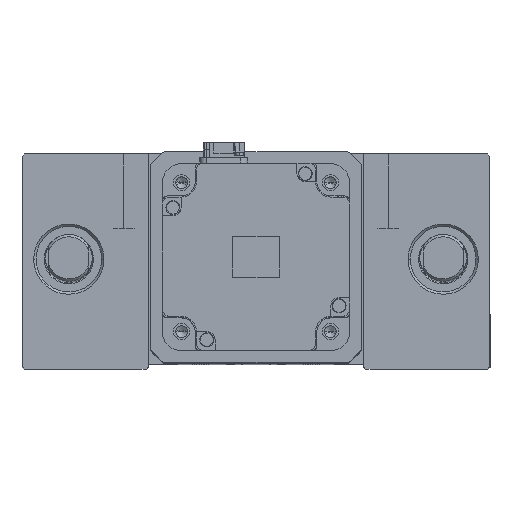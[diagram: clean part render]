
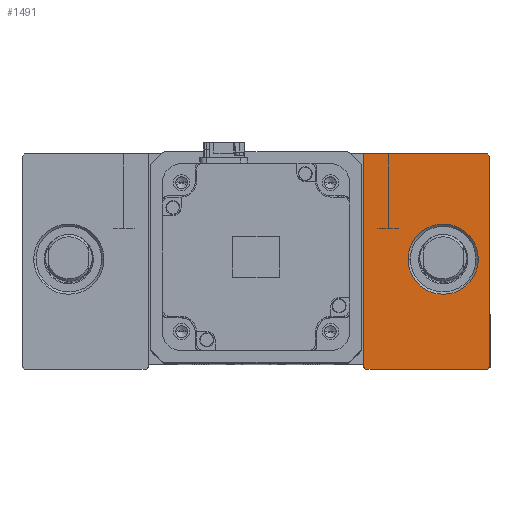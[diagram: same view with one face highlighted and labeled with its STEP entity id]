
A CAD part, top view. The second image highlights one B-rep face of the part: STEP entity #1491.
In plain terms, the highlighted planar face has unit normal (0, 0, 1).
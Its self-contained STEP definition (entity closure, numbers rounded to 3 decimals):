
#306 = AXIS2_PLACEMENT_3D ( 'NONE', #42944, #39216, #15960 ) ;
#947 = CARTESIAN_POINT ( 'NONE',  ( 100., -46., 35. ) ) ;
#1491 = ADVANCED_FACE ( 'NONE', ( #40991, #21569 ), #8139, .T. ) ;
#4692 = LINE ( 'NONE', #8907, #24134 ) ;
#4978 = CIRCLE ( 'NONE', #5404, 15. ) ;
#5169 = CARTESIAN_POINT ( 'NONE',  ( 0., 0., 35. ) ) ;
#5404 = AXIS2_PLACEMENT_3D ( 'NONE', #41604, #18361, #45503 ) ;
#5986 = ORIENTED_EDGE ( 'NONE', *, *, #50062, .T. ) ;
#6746 = CARTESIAN_POINT ( 'NONE',  ( 100., 44., 35. ) ) ;
#7515 = EDGE_CURVE ( 'NONE', #25339, #49653, #45760, .T. ) ;
#7674 = DIRECTION ( 'NONE',  ( 1., 0., 0. ) ) ;
#8139 = PLANE ( 'NONE',  #306 ) ;
#8907 = CARTESIAN_POINT ( 'NONE',  ( 46., 45., 35. ) ) ;
#9219 = LINE ( 'NONE', #39048, #38987 ) ;
#9306 = CARTESIAN_POINT ( 'NONE',  ( 46., -46., 35. ) ) ;
#11073 = ORIENTED_EDGE ( 'NONE', *, *, #37308, .T. ) ;
#11170 = DIRECTION ( 'NONE',  ( -1., 0., 0. ) ) ;
#11745 = AXIS2_PLACEMENT_3D ( 'NONE', #11755, #38928, #15656 ) ;
#11755 = CARTESIAN_POINT ( 'NONE',  ( 80., 0., 35. ) ) ;
#12250 = ORIENTED_EDGE ( 'NONE', *, *, #20332, .T. ) ;
#12498 = EDGE_CURVE ( 'NONE', #21686, #49139, #33296, .T. ) ;
#14002 = CARTESIAN_POINT ( 'NONE',  ( 46., 45., 35. ) ) ;
#15656 = DIRECTION ( 'NONE',  ( 1., 0., 0. ) ) ;
#15707 = ORIENTED_EDGE ( 'NONE', *, *, #25287, .T. ) ;
#15960 = DIRECTION ( 'NONE',  ( 1., 0., 0. ) ) ;
#16111 = VECTOR ( 'NONE', #16890, 1000. ) ;
#16366 = VERTEX_POINT ( 'NONE', #33492 ) ;
#16733 = DIRECTION ( 'NONE',  ( 0., -1., 0. ) ) ;
#16765 = ORIENTED_EDGE ( 'NONE', *, *, #12498, .T. ) ;
#16890 = DIRECTION ( 'NONE',  ( 0.707, -0.707, 0. ) ) ;
#17048 = EDGE_CURVE ( 'NONE', #49653, #25339, #4978, .T. ) ;
#18361 = DIRECTION ( 'NONE',  ( 0., 0., -1. ) ) ;
#18992 = CARTESIAN_POINT ( 'NONE',  ( 46., 45., 35. ) ) ;
#19901 = CARTESIAN_POINT ( 'NONE',  ( 100., 45., 35. ) ) ;
#20332 = EDGE_CURVE ( 'NONE', #36467, #49100, #4692, .T. ) ;
#21460 = EDGE_LOOP ( 'NONE', ( #48319, #42575 ) ) ;
#21569 = FACE_OUTER_BOUND ( 'NONE', #41762, .T. ) ;
#21686 = VERTEX_POINT ( 'NONE', #6746 ) ;
#24095 = LINE ( 'NONE', #19901, #33155 ) ;
#24134 = VECTOR ( 'NONE', #16733, 1000. ) ;
#24390 = CARTESIAN_POINT ( 'NONE',  ( 95., 0., 35. ) ) ;
#25287 = EDGE_CURVE ( 'NONE', #49139, #36467, #49140, .T. ) ;
#25339 = VERTEX_POINT ( 'NONE', #31800 ) ;
#25365 = VERTEX_POINT ( 'NONE', #947 ) ;
#26451 = LINE ( 'NONE', #5169, #16111 ) ;
#28936 = CARTESIAN_POINT ( 'NONE',  ( 99., -47., 35. ) ) ;
#29483 = LINE ( 'NONE', #38746, #36140 ) ;
#29593 = ORIENTED_EDGE ( 'NONE', *, *, #34647, .T. ) ;
#31800 = CARTESIAN_POINT ( 'NONE',  ( 65., 0., 35. ) ) ;
#33095 = ORIENTED_EDGE ( 'NONE', *, *, #50129, .T. ) ;
#33155 = VECTOR ( 'NONE', #43166, 1000. ) ;
#33296 = LINE ( 'NONE', #44446, #42450 ) ;
#33492 = CARTESIAN_POINT ( 'NONE',  ( 47., -47., 35. ) ) ;
#34647 = EDGE_CURVE ( 'NONE', #49100, #16366, #26451, .T. ) ;
#36140 = VECTOR ( 'NONE', #7674, 1000. ) ;
#36467 = VERTEX_POINT ( 'NONE', #14002 ) ;
#37308 = EDGE_CURVE ( 'NONE', #42577, #25365, #9219, .T. ) ;
#38746 = CARTESIAN_POINT ( 'NONE',  ( 46., -47., 35. ) ) ;
#38928 = DIRECTION ( 'NONE',  ( 0., 0., -1. ) ) ;
#38987 = VECTOR ( 'NONE', #39214, 1000. ) ;
#39048 = CARTESIAN_POINT ( 'NONE',  ( 73., -73., 35. ) ) ;
#39214 = DIRECTION ( 'NONE',  ( 0.707, 0.707, 0. ) ) ;
#39216 = DIRECTION ( 'NONE',  ( 0., 0., 1. ) ) ;
#40521 = DIRECTION ( 'NONE',  ( -0.707, 0.707, 0. ) ) ;
#40991 = FACE_BOUND ( 'NONE', #21460, .T. ) ;
#41604 = CARTESIAN_POINT ( 'NONE',  ( 80., 0., 35. ) ) ;
#41762 = EDGE_LOOP ( 'NONE', ( #12250, #29593, #5986, #11073, #33095, #16765, #15707 ) ) ;
#42450 = VECTOR ( 'NONE', #40521, 1000. ) ;
#42575 = ORIENTED_EDGE ( 'NONE', *, *, #7515, .T. ) ;
#42577 = VERTEX_POINT ( 'NONE', #28936 ) ;
#42944 = CARTESIAN_POINT ( 'NONE',  ( 0., 0., 35. ) ) ;
#43166 = DIRECTION ( 'NONE',  ( 0., 1., 0. ) ) ;
#44280 = CARTESIAN_POINT ( 'NONE',  ( 99., 45., 35. ) ) ;
#44446 = CARTESIAN_POINT ( 'NONE',  ( 72., 72., 35. ) ) ;
#45503 = DIRECTION ( 'NONE',  ( 1., 0., 0. ) ) ;
#45760 = CIRCLE ( 'NONE', #11745, 15. ) ;
#48319 = ORIENTED_EDGE ( 'NONE', *, *, #17048, .T. ) ;
#49100 = VERTEX_POINT ( 'NONE', #9306 ) ;
#49139 = VERTEX_POINT ( 'NONE', #44280 ) ;
#49140 = LINE ( 'NONE', #18992, #50360 ) ;
#49653 = VERTEX_POINT ( 'NONE', #24390 ) ;
#50062 = EDGE_CURVE ( 'NONE', #16366, #42577, #29483, .T. ) ;
#50129 = EDGE_CURVE ( 'NONE', #25365, #21686, #24095, .T. ) ;
#50360 = VECTOR ( 'NONE', #11170, 1000. ) ;
